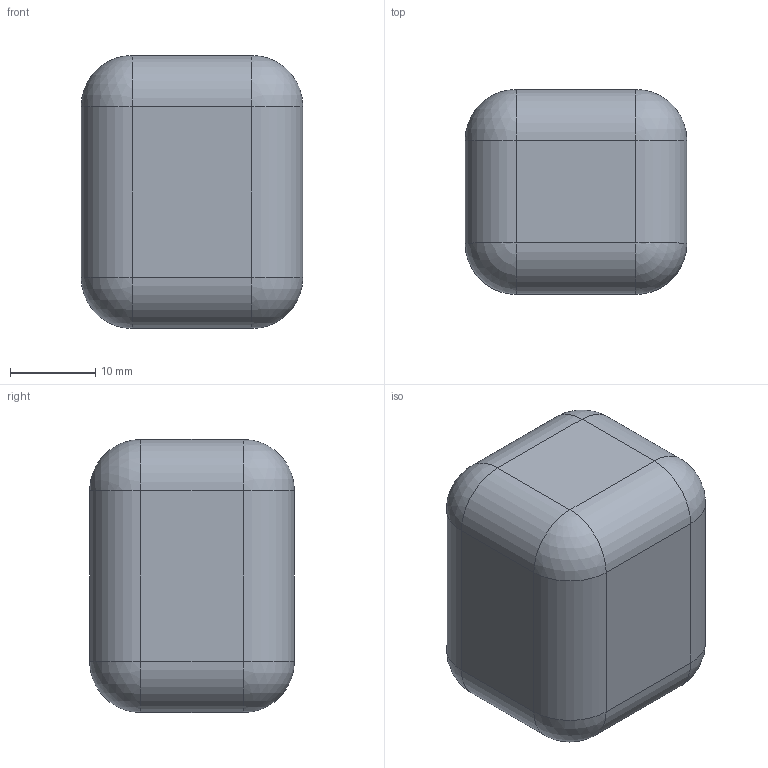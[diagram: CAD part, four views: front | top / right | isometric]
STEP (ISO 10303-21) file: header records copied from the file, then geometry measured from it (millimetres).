
FILE_DESCRIPTION(('Open CASCADE Model'),'2;1');
FILE_NAME('Q4-401','2026-10-08T13:25:57',('Author'),('Open CASCADE'), 'Open CASCADE STEP processor 8.0','build123d','Unknown');
FILE_SCHEMA(('AUTOMOTIVE_DESIGN { 1 0 10303 214 1 1 1 1 }'));
Length unit declared in the file: millimetre
Products named in the file (1): Q4-401
Bounding box: 26 x 24 x 32 mm (x, y, z)
Volume: 17723.3 mm3; surface area: 3562.5 mm2
Topology: 1 solids, 1 shells, 26 faces, 56 edges, 24 vertices
Faces by surface type: cylinder 12, sphere 8, plane 6
Entity records: 1226 total; most frequent: CARTESIAN_POINT 227, DIRECTION 190, ORIENTED_EDGE 96, PCURVE 96, DEFINITIONAL_REPRESENTATION 96, LINE 88, VECTOR 88, AXIS2_PLACEMENT_3D 51
